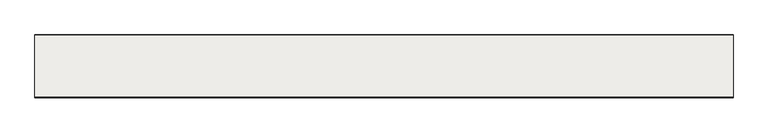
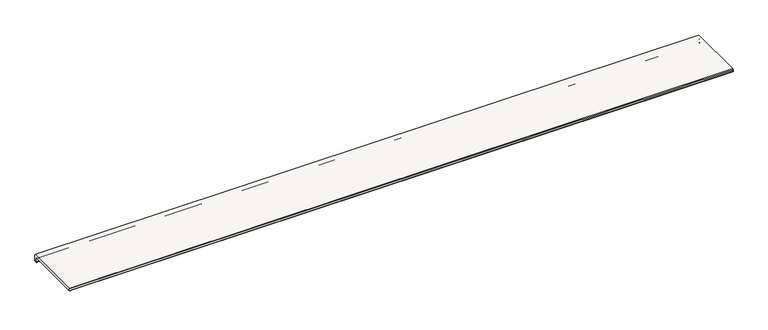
"""IFC4 building model written with IfcOpenShell, lengths in millimetres: slab geometry, ROSA GRES_L62 : Pieza L62_Serena_Ocra_Anti-Slip."""

from ifc_helpers import new_model, si_unit, point, frame, frame_2d, origin, place, context, project, spatial, polyline, circle_curve, trimmed, segment, composite_curve, outline, extrude, source, transform, mapped, element, save


def slab_49bdcff0(model_context):
    return source(origin(), model_context, "Body", "SweptSolid", [
        extrude(outline(composite_curve([segment(trimmed(circle_curve(frame_2d((-12.1001991, -35.1001991)), 1.8998009), [point((-12.1001991, -37.0))], [point((-14.0, -35.1001991))], False, "CARTESIAN"), True, "CONTINUOUS"), segment(polyline([(-14.0, -35.1001991), (-14.0, -16.5836242)]), True, "CONTINUOUS"), segment(trimmed(circle_curve(frame_2d((-16.6422322, -16.5836242)), 2.6422322), [point((-14.0, -16.5836242))], [point((-16.6422322, -13.9413919))], True, "CARTESIAN"), True, "CONTINUOUS"), segment(polyline([(-16.6422322, -13.9413919), (-315.5234432, -13.9413919)]), True, "CONTINUOUS"), segment(trimmed(circle_curve(frame_2d((-315.5234432, -12.4648352)), 1.4765568), [point((-315.5234432, -13.9413919))], [point((-317.0, -12.4648352))], False, "CARTESIAN"), True, "CONTINUOUS"), segment(polyline([(-317.0, -12.4648352), (-317.0, -2.5), (-315.5, 0.0), (-2.5, 0.0), (0.0, -2.5), (0.0, -34.5)]), True, "CONTINUOUS"), segment(trimmed(circle_curve(frame_2d((-2.5, -34.5)), 2.5), [point((0.0, -34.5))], [point((-2.5, -37.0))], False, "CARTESIAN"), True, "CONTINUOUS"), segment(polyline([(-2.5, -37.0), (-5.422949, -37.0)]), True, "CONTINUOUS"), segment(trimmed(circle_curve(frame_2d((-7.4142134, -37.0)), 1.9912643), [point((-5.422949, -37.0))], [point((-9.4054777, -37.0))], True, "CARTESIAN"), True, "CONTINUOUS"), segment(polyline([(-9.4054777, -37.0), (-12.1001991, -37.0)]), True, "CONTINUOUS")], self_intersect=False)), frame((0.0, 0.0, 0.0), z_axis=(1.0, 0.0, 0.0), x_axis=(0.0, 1.0, 0.0)), (0.0, 0.0, 1.0), 3525.0),
    ])


if __name__ == "__main__":
    model = new_model("IFC4")
    model_context = context("Model", 3, world=origin())
    ifc_project = project(units=[si_unit("LENGTHUNIT", "METRE", prefix="MILLI")], contexts=[model_context])
    site = spatial("IfcSite", under=ifc_project)
    building = spatial("IfcBuilding", under=site)
    placement = place(None, origin())
    slab_shape = slab_49bdcff0(model_context)
    element("IfcSlab", 1, ObjectType="ROSA GRES_L62 : Pieza L62_Serena_Ocra_Anti-Slip", at=placement, inside=building, context=model_context, shape_type="MappedRepresentation", body=[
        mapped(slab_shape, transform((0.0, 0.0, 0.0), x_axis=(1.0, 0.0, 0.0), y_axis=(0.0, 1.0, 0.0), z_axis=(0.0, 0.0, 1.0))),
    ])
    save(model, "model.ifc")
